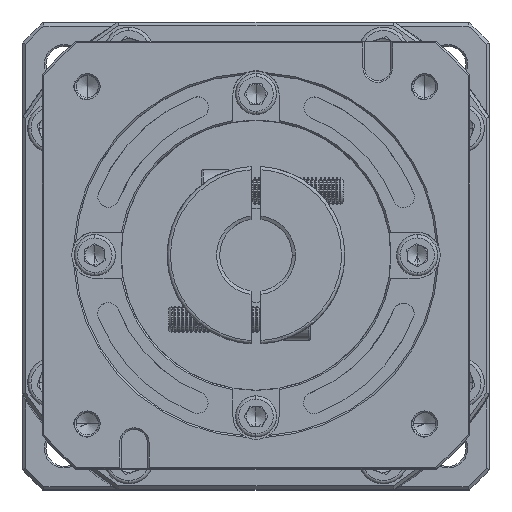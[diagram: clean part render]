
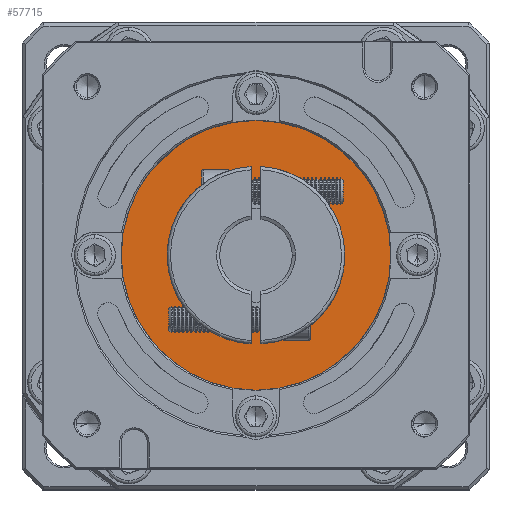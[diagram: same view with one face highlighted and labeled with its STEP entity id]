
A CAD part, top view. The second image highlights one B-rep face of the part: STEP entity #57715.
In plain terms, the highlighted planar face has unit normal (0, 0, 1).
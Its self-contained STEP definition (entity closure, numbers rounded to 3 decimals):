
#2060 = DIRECTION ( 'NONE',  ( 0., 1., 0. ) ) ;
#2985 = DIRECTION ( 'NONE',  ( 0., 1., 0. ) ) ;
#3171 = DIRECTION ( 'NONE',  ( 0., 0., -1. ) ) ;
#5094 = VERTEX_POINT ( 'NONE', #100452 ) ;
#8779 = FACE_BOUND ( 'NONE', #132940, .T. ) ;
#10018 = ORIENTED_EDGE ( 'NONE', *, *, #82408, .T. ) ;
#12250 = DIRECTION ( 'NONE',  ( 0., 0., 1. ) ) ;
#12732 = CARTESIAN_POINT ( 'NONE',  ( -87.738, 87.014, -62.999 ) ) ;
#15275 = DIRECTION ( 'NONE',  ( 0., 1., 0. ) ) ;
#27423 = CARTESIAN_POINT ( 'NONE',  ( -87.738, 87.014, -62.999 ) ) ;
#28017 = ORIENTED_EDGE ( 'NONE', *, *, #108474, .T. ) ;
#39039 = CARTESIAN_POINT ( 'NONE',  ( -87.738, 87.014, -62.999 ) ) ;
#39543 = FACE_OUTER_BOUND ( 'NONE', #134061, .T. ) ;
#43034 = VERTEX_POINT ( 'NONE', #47400 ) ;
#47400 = CARTESIAN_POINT ( 'NONE',  ( -87.738, 46.014, -62.999 ) ) ;
#55403 = CIRCLE ( 'NONE', #128584, 20. ) ;
#55756 = AXIS2_PLACEMENT_3D ( 'NONE', #39039, #3171, #15275 ) ;
#57715 = ADVANCED_FACE ( 'NONE', ( #39543, #8779 ), #72146, .T. ) ;
#58897 = CARTESIAN_POINT ( 'NONE',  ( -87.738, 87.014, -62.999 ) ) ;
#62177 = CIRCLE ( 'NONE', #143629, 41. ) ;
#70650 = CARTESIAN_POINT ( 'NONE',  ( -87.738, 87.014, -62.999 ) ) ;
#71303 = VERTEX_POINT ( 'NONE', #116693 ) ;
#72146 = PLANE ( 'NONE',  #129266 ) ;
#74810 = DIRECTION ( 'NONE',  ( 0., 1., 0. ) ) ;
#77188 = ORIENTED_EDGE ( 'NONE', *, *, #121230, .T. ) ;
#81490 = VERTEX_POINT ( 'NONE', #135238 ) ;
#82408 = EDGE_CURVE ( 'NONE', #81490, #5094, #126201, .T. ) ;
#94369 = DIRECTION ( 'NONE',  ( 0., 0., 1. ) ) ;
#97519 = DIRECTION ( 'NONE',  ( 0., 0., -1. ) ) ;
#100452 = CARTESIAN_POINT ( 'NONE',  ( -87.738, 107.014, -62.999 ) ) ;
#101209 = EDGE_CURVE ( 'NONE', #71303, #43034, #62177, .T. ) ;
#105410 = DIRECTION ( 'NONE',  ( 0., 1., 0. ) ) ;
#105903 = DIRECTION ( 'NONE',  ( 0., 0., 1. ) ) ;
#108120 = AXIS2_PLACEMENT_3D ( 'NONE', #12732, #12250, #2060 ) ;
#108474 = EDGE_CURVE ( 'NONE', #43034, #71303, #135063, .T. ) ;
#116693 = CARTESIAN_POINT ( 'NONE',  ( -87.738, 128.014, -62.999 ) ) ;
#121230 = EDGE_CURVE ( 'NONE', #5094, #81490, #55403, .T. ) ;
#126201 = CIRCLE ( 'NONE', #55756, 20. ) ;
#128584 = AXIS2_PLACEMENT_3D ( 'NONE', #27423, #97519, #74810 ) ;
#129266 = AXIS2_PLACEMENT_3D ( 'NONE', #70650, #94369, #2985 ) ;
#132940 = EDGE_LOOP ( 'NONE', ( #77188, #10018 ) ) ;
#134061 = EDGE_LOOP ( 'NONE', ( #148365, #28017 ) ) ;
#135063 = CIRCLE ( 'NONE', #108120, 41. ) ;
#135238 = CARTESIAN_POINT ( 'NONE',  ( -87.738, 67.014, -62.999 ) ) ;
#143629 = AXIS2_PLACEMENT_3D ( 'NONE', #58897, #105903, #105410 ) ;
#148365 = ORIENTED_EDGE ( 'NONE', *, *, #101209, .T. ) ;
